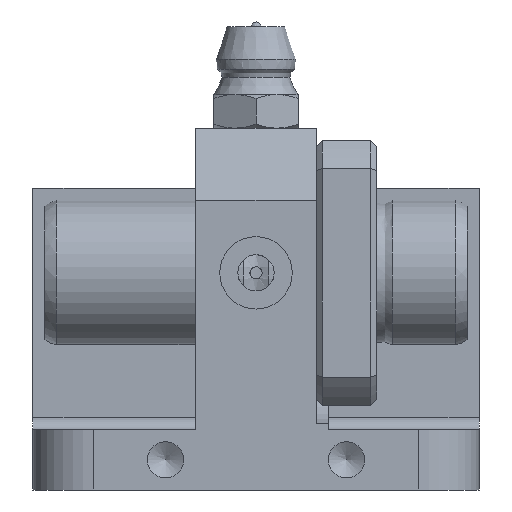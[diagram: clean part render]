
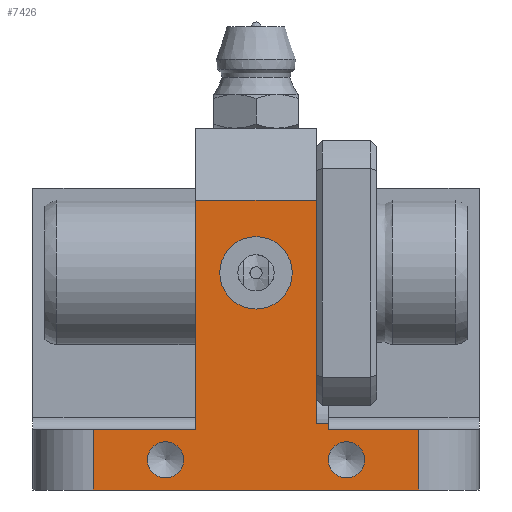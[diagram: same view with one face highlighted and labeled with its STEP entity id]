
A CAD part, front view. The second image highlights one B-rep face of the part: STEP entity #7426.
In plain terms, the highlighted planar face has unit normal (0, -1, 0).
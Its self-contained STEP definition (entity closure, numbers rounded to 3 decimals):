
#7280=CARTESIAN_POINT('',(32.0,-32.5,5.0));
#7281=VERTEX_POINT('',#7280);
#7289=CARTESIAN_POINT('',(32.0,-32.5,0.0));
#7290=VERTEX_POINT('',#7289);
#7291=CARTESIAN_POINT('',(32.0,-32.5,5.0));
#7292=DIRECTION('',(0.0,0.0,-1.0));
#7293=VECTOR('',#7292,5.0);
#7294=LINE('',#7291,#7293);
#7295=EDGE_CURVE('',#7281,#7290,#7294,.T.);
#7315=CARTESIAN_POINT('',(37.0,-32.5,0.0));
#7316=DIRECTION('',(0.0,-1.0,0.0));
#7317=DIRECTION('',(0.0,0.0,-1.0));
#7318=AXIS2_PLACEMENT_3D('',#7315,#7316,#7317);
#7319=PLANE('',#7318);
#7320=ORIENTED_EDGE('',*,*,#7295,.F.);
#7321=CARTESIAN_POINT('',(24.5,-32.5,5.0));
#7322=VERTEX_POINT('',#7321);
#7323=CARTESIAN_POINT('',(32.0,-32.5,5.0));
#7324=DIRECTION('',(-1.0,0.0,0.0));
#7325=VECTOR('',#7324,7.5);
#7326=LINE('',#7323,#7325);
#7327=EDGE_CURVE('',#7281,#7322,#7326,.T.);
#7328=ORIENTED_EDGE('',*,*,#7327,.T.);
#7329=CARTESIAN_POINT('',(24.5,-32.5,5.5));
#7330=VERTEX_POINT('',#7329);
#7331=CARTESIAN_POINT('',(24.5,-32.5,5.0));
#7332=DIRECTION('',(0.0,0.0,1.0));
#7333=VECTOR('',#7332,0.5);
#7334=LINE('',#7331,#7333);
#7335=EDGE_CURVE('',#7322,#7330,#7334,.T.);
#7336=ORIENTED_EDGE('',*,*,#7335,.T.);
#7337=CARTESIAN_POINT('',(23.5,-32.5,5.5));
#7338=VERTEX_POINT('',#7337);
#7339=CARTESIAN_POINT('',(23.5,-32.5,5.5));
#7340=DIRECTION('',(1.0,0.0,0.0));
#7341=VECTOR('',#7340,1.);
#7342=LINE('',#7339,#7341);
#7343=EDGE_CURVE('',#7338,#7330,#7342,.T.);
#7344=ORIENTED_EDGE('',*,*,#7343,.F.);
#7345=CARTESIAN_POINT('',(23.5,-32.5,24.));
#7346=VERTEX_POINT('',#7345);
#7347=CARTESIAN_POINT('',(23.5,-32.5,5.5));
#7348=DIRECTION('',(0.0,0.0,1.0));
#7349=VECTOR('',#7348,18.5);
#7350=LINE('',#7347,#7349);
#7351=EDGE_CURVE('',#7338,#7346,#7350,.T.);
#7352=ORIENTED_EDGE('',*,*,#7351,.T.);
#7353=CARTESIAN_POINT('',(13.5,-32.5,24.));
#7354=VERTEX_POINT('',#7353);
#7355=CARTESIAN_POINT('',(13.5,-32.5,24.));
#7356=DIRECTION('',(1.0,0.0,0.0));
#7357=VECTOR('',#7356,10.);
#7358=LINE('',#7355,#7357);
#7359=EDGE_CURVE('',#7354,#7346,#7358,.T.);
#7360=ORIENTED_EDGE('',*,*,#7359,.F.);
#7361=CARTESIAN_POINT('',(13.5,-32.5,5.));
#7362=VERTEX_POINT('',#7361);
#7363=CARTESIAN_POINT('',(13.5,-32.5,24.));
#7364=DIRECTION('',(0.0,0.0,-1.0));
#7365=VECTOR('',#7364,19.);
#7366=LINE('',#7363,#7365);
#7367=EDGE_CURVE('',#7354,#7362,#7366,.T.);
#7368=ORIENTED_EDGE('',*,*,#7367,.T.);
#7369=CARTESIAN_POINT('',(5.0,-32.5,5.));
#7370=VERTEX_POINT('',#7369);
#7371=CARTESIAN_POINT('',(13.5,-32.5,5.));
#7372=DIRECTION('',(-1.0,0.0,0.0));
#7373=VECTOR('',#7372,8.5);
#7374=LINE('',#7371,#7373);
#7375=EDGE_CURVE('',#7362,#7370,#7374,.T.);
#7376=ORIENTED_EDGE('',*,*,#7375,.T.);
#7377=CARTESIAN_POINT('',(5.0,-32.5,0.0));
#7378=VERTEX_POINT('',#7377);
#7379=CARTESIAN_POINT('',(5.0,-32.5,0.0));
#7380=DIRECTION('',(0.0,0.0,1.0));
#7381=VECTOR('',#7380,5.);
#7382=LINE('',#7379,#7381);
#7383=EDGE_CURVE('',#7378,#7370,#7382,.T.);
#7384=ORIENTED_EDGE('',*,*,#7383,.F.);
#7385=CARTESIAN_POINT('',(5.0,-32.5,0.0));
#7386=DIRECTION('',(1.0,0.0,0.0));
#7387=VECTOR('',#7386,27.0);
#7388=LINE('',#7385,#7387);
#7389=EDGE_CURVE('',#7378,#7290,#7388,.T.);
#7390=ORIENTED_EDGE('',*,*,#7389,.T.);
#7391=EDGE_LOOP('',(#7320,#7328,#7336,#7344,#7352,#7360,#7368,#7376,#7384,#7390));
#7392=FACE_OUTER_BOUND('',#7391,.T.);
#7393=CARTESIAN_POINT('',(27.5,-32.5,2.5));
#7394=VERTEX_POINT('',#7393);
#7395=CARTESIAN_POINT('',(26.,-32.5,2.5));
#7396=DIRECTION('',(0.0,1.0,0.0));
#7397=DIRECTION('',(1.0,0.0,0.0));
#7398=AXIS2_PLACEMENT_3D('',#7395,#7396,#7397);
#7399=CIRCLE('',#7398,1.5);
#7400=EDGE_CURVE('',#7394,#7394,#7399,.T.);
#7401=ORIENTED_EDGE('',*,*,#7400,.T.);
#7402=EDGE_LOOP('',(#7401));
#7403=FACE_BOUND('',#7402,.T.);
#7404=CARTESIAN_POINT('',(12.5,-32.5,2.5));
#7405=VERTEX_POINT('',#7404);
#7406=CARTESIAN_POINT('',(11.,-32.5,2.5));
#7407=DIRECTION('',(0.0,1.0,0.0));
#7408=DIRECTION('',(1.0,0.0,0.0));
#7409=AXIS2_PLACEMENT_3D('',#7406,#7407,#7408);
#7410=CIRCLE('',#7409,1.5);
#7411=EDGE_CURVE('',#7405,#7405,#7410,.T.);
#7412=ORIENTED_EDGE('',*,*,#7411,.T.);
#7413=EDGE_LOOP('',(#7412));
#7414=FACE_BOUND('',#7413,.T.);
#7415=CARTESIAN_POINT('',(21.5,-32.5,18.0));
#7416=VERTEX_POINT('',#7415);
#7417=CARTESIAN_POINT('',(18.5,-32.5,18.0));
#7418=DIRECTION('',(0.0,1.0,0.0));
#7419=DIRECTION('',(1.0,0.0,0.0));
#7420=AXIS2_PLACEMENT_3D('',#7417,#7418,#7419);
#7421=CIRCLE('',#7420,3.);
#7422=EDGE_CURVE('',#7416,#7416,#7421,.T.);
#7423=ORIENTED_EDGE('',*,*,#7422,.T.);
#7424=EDGE_LOOP('',(#7423));
#7425=FACE_BOUND('',#7424,.T.);
#7426=ADVANCED_FACE('',(#7392,#7403,#7414,#7425),#7319,.T.);
